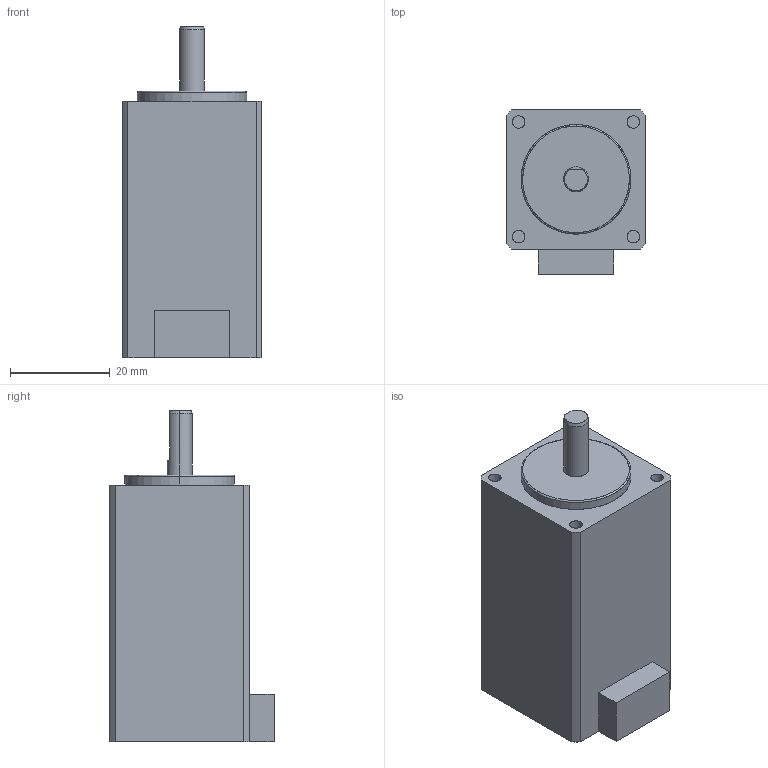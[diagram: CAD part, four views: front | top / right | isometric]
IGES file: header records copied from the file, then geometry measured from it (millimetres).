
Start section: SolidWorks IGES file using analytic representation for surfaces
Global section: file name: \\MCADserv\kari\7666\Plexmotion New 3D data\PMSB-U28DA3_3D\PMSB-U28DA3_3D.IGS; native system: SolidWorks 2014; preprocessor: SolidWorks 2014; author: user0016; date: 161115.114108; units: millimetre
Bounding box: 28 x 33 x 66.5 mm (x, y, z)
Surface area: 8669.2 mm2 (no closed solid volume)
Topology: 0 solids, 0 shells, 40 faces, 536 edges, 536 vertices
Faces by surface type: bspline 21, revolution 19
